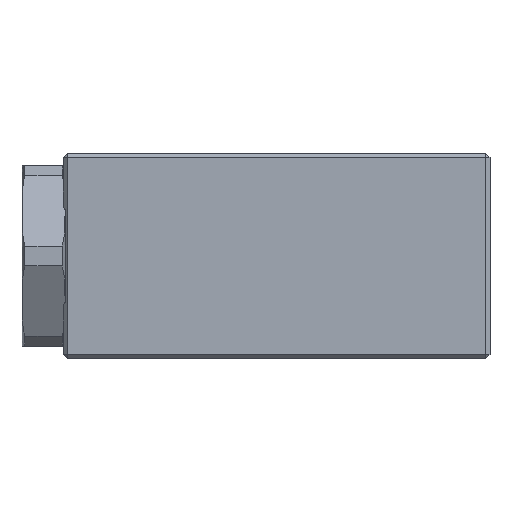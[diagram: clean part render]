
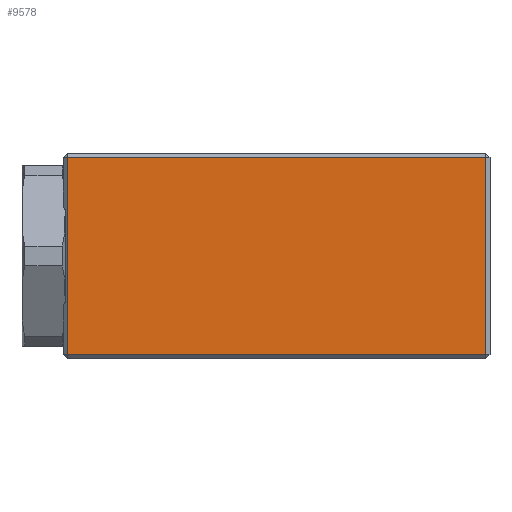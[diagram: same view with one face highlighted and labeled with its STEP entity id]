
A CAD part, front view. The second image highlights one B-rep face of the part: STEP entity #9578.
In plain terms, the highlighted planar face has unit normal (0, -1, 0).
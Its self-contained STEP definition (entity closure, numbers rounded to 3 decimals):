
#417 = DIRECTION ( 'NONE',  ( 0., 0., 1. ) ) ;
#458 = VERTEX_POINT ( 'NONE', #1184 ) ;
#603 = LINE ( 'NONE', #6409, #8432 ) ;
#872 = CARTESIAN_POINT ( 'NONE',  ( -25.5, -17.5, 12. ) ) ;
#1184 = CARTESIAN_POINT ( 'NONE',  ( 25.5, -17.5, 12. ) ) ;
#1297 = LINE ( 'NONE', #4123, #8799 ) ;
#1373 = ORIENTED_EDGE ( 'NONE', *, *, #4264, .F. ) ;
#1545 = EDGE_LOOP ( 'NONE', ( #6539, #2746, #2368, #1373 ) ) ;
#2368 = ORIENTED_EDGE ( 'NONE', *, *, #7243, .F. ) ;
#2419 = PLANE ( 'NONE',  #3914 ) ;
#2746 = ORIENTED_EDGE ( 'NONE', *, *, #5045, .F. ) ;
#2839 = VERTEX_POINT ( 'NONE', #3359 ) ;
#3147 = DIRECTION ( 'NONE',  ( 0., 0., -1. ) ) ;
#3359 = CARTESIAN_POINT ( 'NONE',  ( -25.5, -17.5, -12. ) ) ;
#3785 = CARTESIAN_POINT ( 'NONE',  ( 25.5, -17.5, 12.5 ) ) ;
#3914 = AXIS2_PLACEMENT_3D ( 'NONE', #6988, #9262, #6325 ) ;
#4027 = CARTESIAN_POINT ( 'NONE',  ( 25.5, -17.5, -12. ) ) ;
#4123 = CARTESIAN_POINT ( 'NONE',  ( -26., -17.5, -12. ) ) ;
#4264 = EDGE_CURVE ( 'NONE', #9485, #458, #603, .T. ) ;
#5045 = EDGE_CURVE ( 'NONE', #8736, #2839, #1297, .T. ) ;
#5324 = LINE ( 'NONE', #3785, #7595 ) ;
#6227 = LINE ( 'NONE', #9509, #8605 ) ;
#6325 = DIRECTION ( 'NONE',  ( 0., 0., 1. ) ) ;
#6409 = CARTESIAN_POINT ( 'NONE',  ( -26., -17.5, 12. ) ) ;
#6539 = ORIENTED_EDGE ( 'NONE', *, *, #8500, .F. ) ;
#6793 = FACE_OUTER_BOUND ( 'NONE', #1545, .T. ) ;
#6988 = CARTESIAN_POINT ( 'NONE',  ( -26., -17.5, 12.5 ) ) ;
#7243 = EDGE_CURVE ( 'NONE', #458, #8736, #5324, .T. ) ;
#7254 = DIRECTION ( 'NONE',  ( -1., 0., 0. ) ) ;
#7466 = DIRECTION ( 'NONE',  ( 1., 0., 0. ) ) ;
#7595 = VECTOR ( 'NONE', #3147, 1000. ) ;
#8432 = VECTOR ( 'NONE', #7466, 1000. ) ;
#8500 = EDGE_CURVE ( 'NONE', #2839, #9485, #6227, .T. ) ;
#8605 = VECTOR ( 'NONE', #417, 1000. ) ;
#8736 = VERTEX_POINT ( 'NONE', #4027 ) ;
#8799 = VECTOR ( 'NONE', #7254, 1000. ) ;
#9262 = DIRECTION ( 'NONE',  ( 0., 1., 0. ) ) ;
#9485 = VERTEX_POINT ( 'NONE', #872 ) ;
#9509 = CARTESIAN_POINT ( 'NONE',  ( -25.5, -17.5, 12.5 ) ) ;
#9578 = ADVANCED_FACE ( 'NONE', ( #6793 ), #2419, .F. ) ;
